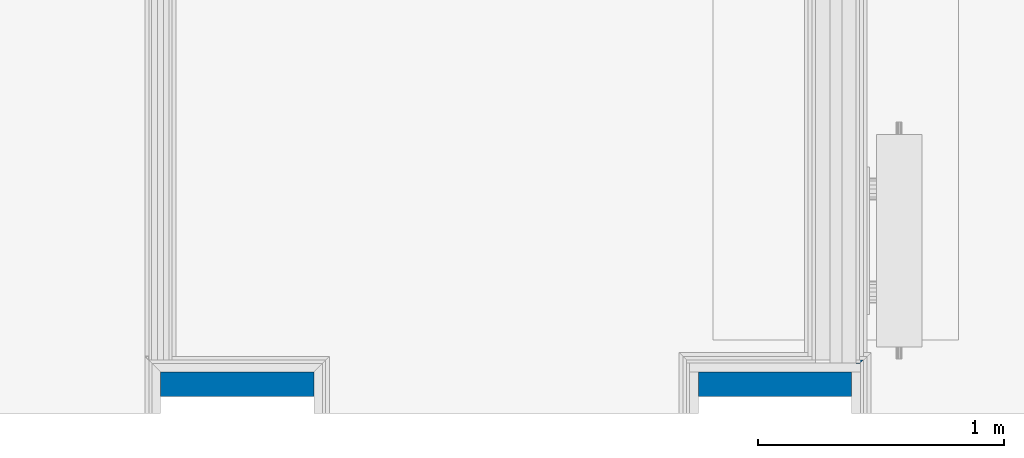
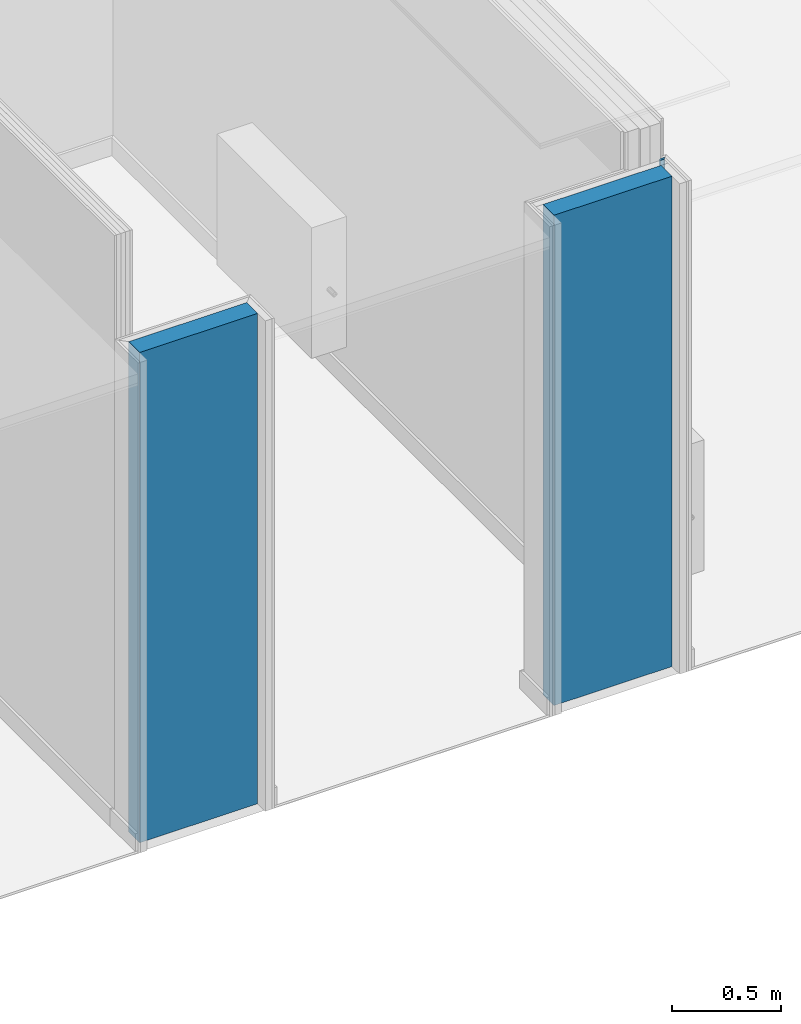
# One storey, part 5 of 65: 3 walls.
"""IFC2X3 building model written with IfcOpenShell, lengths in metres."""

from ifc_helpers import new_model, entity, si_unit, converted_unit, derived_unit, money_unit, direction, frame, frame_2d, origin_with_axes, place, context, subcontext, project, spatial, polyline, rectangle, outline, extrude, material, layer, layer_set, layer_usage, type_object, element, save


model = new_model("IFC2X3")

# Units and contexts
model_context = context("Model", 3, precision=1e-05, world=origin_with_axes(), true_north=direction((0.0, 1.0)))
body_context = subcontext(model_context, "Body", "Model", "MODEL_VIEW", scale=1.0)
ifc_project = project(units=[si_unit("LENGTHUNIT", "METRE"), si_unit("AREAUNIT", "SQUARE_METRE"), si_unit("VOLUMEUNIT", "CUBIC_METRE"), si_unit("ABSORBEDDOSEUNIT", "GRAY"), si_unit("AMOUNTOFSUBSTANCEUNIT", "MOLE"), si_unit("DOSEEQUIVALENTUNIT", "SIEVERT"), si_unit("ELECTRICCAPACITANCEUNIT", "FARAD"), si_unit("ELECTRICCHARGEUNIT", "COULOMB"), si_unit("ELECTRICCONDUCTANCEUNIT", "SIEMENS"), si_unit("ELECTRICCURRENTUNIT", "AMPERE"), si_unit("ELECTRICRESISTANCEUNIT", "OHM"), si_unit("ELECTRICVOLTAGEUNIT", "VOLT"), si_unit("ENERGYUNIT", "JOULE"), si_unit("FORCEUNIT", "NEWTON"), si_unit("FREQUENCYUNIT", "HERTZ"), si_unit("ILLUMINANCEUNIT", "LUX"), si_unit("INDUCTANCEUNIT", "HENRY"), si_unit("LUMINOUSFLUXUNIT", "LUMEN"), si_unit("LUMINOUSINTENSITYUNIT", "CANDELA"), si_unit("MAGNETICFLUXDENSITYUNIT", "TESLA"), si_unit("MAGNETICFLUXUNIT", "WEBER"), si_unit("MASSUNIT", "GRAM"), converted_unit("PLANEANGLEUNIT", "degree", entity("IfcReal", 0.0174532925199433), si_unit("PLANEANGLEUNIT", "RADIAN"), dimensions=[0, 0, 0, 0, 0, 0, 0]), si_unit("POWERUNIT", "WATT"), si_unit("PRESSUREUNIT", "PASCAL"), si_unit("RADIOACTIVITYUNIT", "BECQUEREL"), si_unit("SOLIDANGLEUNIT", "STERADIAN"), si_unit("THERMODYNAMICTEMPERATUREUNIT", "KELVIN"), si_unit("TIMEUNIT", "SECOND"), derived_unit("ACCELERATIONUNIT", [(si_unit("LENGTHUNIT", "METRE"), 1), (si_unit("TIMEUNIT", "SECOND"), -2)]), derived_unit("ANGULARVELOCITYUNIT", [(converted_unit("PLANEANGLEUNIT", "degree", entity("IfcReal", 0.0174532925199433), si_unit("PLANEANGLEUNIT", "RADIAN"), dimensions=[0, 0, 0, 0, 0, 0, 0]), 1), (si_unit("TIMEUNIT", "SECOND"), -1)]), derived_unit("CURVATUREUNIT", [(converted_unit("PLANEANGLEUNIT", "degree", entity("IfcReal", 0.0174532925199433), si_unit("PLANEANGLEUNIT", "RADIAN"), dimensions=[0, 0, 0, 0, 0, 0, 0]), 1), (si_unit("LENGTHUNIT", "METRE"), -1)]), derived_unit("DYNAMICVISCOSITYUNIT", [(si_unit("PRESSUREUNIT", "PASCAL"), 1), (si_unit("TIMEUNIT", "SECOND"), 1)]), derived_unit("HEATFLUXDENSITYUNIT", [(si_unit("POWERUNIT", "WATT"), 1), (si_unit("LENGTHUNIT", "METRE"), -2)]), derived_unit("HEATINGVALUEUNIT", [(si_unit("ENERGYUNIT", "JOULE"), 1), (si_unit("MASSUNIT", "GRAM"), -1)]), derived_unit("INTEGERCOUNTRATEUNIT", [(si_unit("TIMEUNIT", "SECOND"), -1)]), derived_unit("IONCONCENTRATIONUNIT", [(si_unit("MASSUNIT", "GRAM"), 1), (si_unit("VOLUMEUNIT", "CUBIC_METRE"), -1)]), derived_unit("ISOTHERMALMOISTURECAPACITYUNIT", [(si_unit("VOLUMEUNIT", "CUBIC_METRE"), 1), (si_unit("MASSUNIT", "GRAM"), -1)]), derived_unit("KINEMATICVISCOSITYUNIT", [(si_unit("AREAUNIT", "SQUARE_METRE"), 1), (si_unit("TIMEUNIT", "SECOND"), -1)]), derived_unit("LINEARFORCEUNIT", [(si_unit("FORCEUNIT", "NEWTON"), 1), (si_unit("LENGTHUNIT", "METRE"), -1)]), derived_unit("LINEARMOMENTUNIT", [(si_unit("FORCEUNIT", "NEWTON"), 1), (si_unit("LENGTHUNIT", "METRE"), -1)]), derived_unit("LINEARSTIFFNESSUNIT", [(si_unit("FORCEUNIT", "NEWTON"), 1), (si_unit("LENGTHUNIT", "METRE"), -1)]), derived_unit("LINEARVELOCITYUNIT", [(si_unit("LENGTHUNIT", "METRE"), 1), (si_unit("TIMEUNIT", "SECOND"), -1)]), derived_unit("LUMINOUSINTENSITYDISTRIBUTIONUNIT", [(si_unit("LUMINOUSINTENSITYUNIT", "CANDELA"), 1), (si_unit("LUMINOUSFLUXUNIT", "LUMEN"), -1)]), derived_unit("MASSDENSITYUNIT", [(si_unit("MASSUNIT", "GRAM"), 1), (si_unit("VOLUMEUNIT", "CUBIC_METRE"), -1)]), derived_unit("MASSFLOWRATEUNIT", [(si_unit("MASSUNIT", "GRAM"), 1), (si_unit("TIMEUNIT", "SECOND"), -1)]), derived_unit("MASSPERLENGTHUNIT", [(si_unit("MASSUNIT", "GRAM"), 1), (si_unit("LENGTHUNIT", "METRE"), -1)]), derived_unit("MODULUSOFELASTICITYUNIT", [(si_unit("FORCEUNIT", "NEWTON"), 1), (si_unit("AREAUNIT", "SQUARE_METRE"), -1)]), derived_unit("MODULUSOFLINEARSUBGRADEREACTIONUNIT", [(si_unit("FORCEUNIT", "NEWTON"), 1), (si_unit("LENGTHUNIT", "METRE"), -2)]), derived_unit("MODULUSOFROTATIONALSUBGRADEREACTIONUNIT", [(si_unit("FORCEUNIT", "NEWTON"), 1), (si_unit("LENGTHUNIT", "METRE"), 1)]), derived_unit("MODULUSOFSUBGRADEREACTIONUNIT", [(si_unit("FORCEUNIT", "NEWTON"), 1), (si_unit("VOLUMEUNIT", "CUBIC_METRE"), -1)]), derived_unit("MOISTUREDIFFUSIVITYUNIT", [(si_unit("VOLUMEUNIT", "CUBIC_METRE"), 1), (si_unit("TIMEUNIT", "SECOND"), -1)]), derived_unit("MOLECULARWEIGHTUNIT", [(si_unit("MASSUNIT", "GRAM"), 1), (si_unit("AMOUNTOFSUBSTANCEUNIT", "MOLE"), -1)]), derived_unit("PLANARFORCEUNIT", [(si_unit("FORCEUNIT", "NEWTON"), 1), (si_unit("LENGTHUNIT", "METRE"), -2)]), derived_unit("ROTATIONALFREQUENCYUNIT", [(si_unit("TIMEUNIT", "SECOND"), -1)]), derived_unit("ROTATIONALMASSUNIT", [(si_unit("MASSUNIT", "GRAM"), 1), (si_unit("LENGTHUNIT", "METRE"), 2)]), derived_unit("ROTATIONALSTIFFNESSUNIT", [(si_unit("FORCEUNIT", "NEWTON"), 1), (si_unit("LENGTHUNIT", "METRE"), 1), (converted_unit("PLANEANGLEUNIT", "degree", entity("IfcReal", 0.0174532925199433), si_unit("PLANEANGLEUNIT", "RADIAN"), dimensions=[0, 0, 0, 0, 0, 0, 0]), -1)]), derived_unit("SECTIONAREAINTEGRALUNIT", [(si_unit("LENGTHUNIT", "METRE"), 5)]), derived_unit("SECTIONMODULUSUNIT", [(si_unit("LENGTHUNIT", "METRE"), 3)]), derived_unit("SHEARMODULUSUNIT", [(si_unit("FORCEUNIT", "NEWTON"), 1), (si_unit("AREAUNIT", "SQUARE_METRE"), -1)]), derived_unit("SOUNDPOWERUNIT", [(si_unit("ENERGYUNIT", "JOULE"), 1), (si_unit("TIMEUNIT", "SECOND"), -1)]), derived_unit("SPECIFICHEATCAPACITYUNIT", [(si_unit("FORCEUNIT", "NEWTON"), 1), (si_unit("MASSUNIT", "GRAM"), -1), (si_unit("THERMODYNAMICTEMPERATUREUNIT", "KELVIN"), -1)]), derived_unit("TEMPERATUREGRADIENTUNIT", [(si_unit("THERMODYNAMICTEMPERATUREUNIT", "KELVIN"), 1), (si_unit("LENGTHUNIT", "METRE"), -1)]), derived_unit("THERMALADMITTANCEUNIT", [(si_unit("POWERUNIT", "WATT"), 1), (si_unit("AREAUNIT", "SQUARE_METRE"), -1), (si_unit("THERMODYNAMICTEMPERATUREUNIT", "KELVIN"), -1)]), derived_unit("THERMALCONDUCTANCEUNIT", [(si_unit("POWERUNIT", "WATT"), 1), (si_unit("LENGTHUNIT", "METRE"), -1), (si_unit("THERMODYNAMICTEMPERATUREUNIT", "KELVIN"), -1)]), derived_unit("THERMALEXPANSIONCOEFFICIENTUNIT", [(si_unit("THERMODYNAMICTEMPERATUREUNIT", "KELVIN"), -1)]), derived_unit("THERMALRESISTANCEUNIT", [(si_unit("AREAUNIT", "SQUARE_METRE"), 1), (si_unit("POWERUNIT", "WATT"), -1)]), derived_unit("THERMALTRANSMITTANCEUNIT", [(si_unit("POWERUNIT", "WATT"), 1), (si_unit("AREAUNIT", "SQUARE_METRE"), -1), (si_unit("THERMODYNAMICTEMPERATUREUNIT", "KELVIN"), -1)]), derived_unit("TORQUEUNIT", [(si_unit("FORCEUNIT", "NEWTON"), 1), (si_unit("LENGTHUNIT", "METRE"), 1)]), derived_unit("VAPORPERMEABILITYUNIT", [(si_unit("MASSUNIT", "GRAM"), 1), (si_unit("TIMEUNIT", "SECOND"), -1)]), derived_unit("VOLUMETRICFLOWRATEUNIT", [(si_unit("VOLUMEUNIT", "CUBIC_METRE"), 1), (si_unit("TIMEUNIT", "SECOND"), -1)]), derived_unit("WARPINGCONSTANTUNIT", [(si_unit("LENGTHUNIT", "METRE"), 6)]), derived_unit("WARPINGMOMENTUNIT", [(si_unit("FORCEUNIT", "NEWTON"), 1), (si_unit("LENGTHUNIT", "METRE"), 2)]), money_unit("GBP")], contexts=[model_context])

# Site, building, storey
site_placement = place(None, origin_with_axes())
site = spatial("IfcSite", under=ifc_project, at=site_placement, Name="Site", CompositionType="ELEMENT")
building_placement = place(site_placement, origin_with_axes())
building = spatial("IfcBuilding", under=site, at=building_placement, Name="Building01", CompositionType="ELEMENT")
storey_placement = place(building_placement, frame((0.0, 0.0, 8.64), z_axis=(0.0, 0.0, 1.0), x_axis=(1.0, 0.0, 0.0)))
storey = spatial("IfcBuildingStorey", under=building, at=storey_placement, Name="2F", CompositionType="ELEMENT", Elevation=8.64)

# Walls
ifc_material_1 = material(Name="A_BSUK_WallsExternal_Block")
ifc_layer_1 = layer(ifc_material_1, 0.1, ventilated=False)
ifc_layer_set_1 = layer_set([ifc_layer_1])
ifc_layer_usage_1 = layer_usage(ifc_layer_set_1, "AXIS2", "POSITIVE", 0.0)
wall_type_1 = type_object("IfcWallType", Name="A-Walls-ExternalBlock", PredefinedType="NOTDEFINED")
for number, where, z_axis, x_axis, name in (
    (1, (20.387, 0.27, 0.0), (0.0, 0.0, 1.0), (-1.0, 0.0, 0.0), "A-Walls-ExternalBlock"),
    (2, (22.577, 0.27, 0.0), (0.0, 0.0, 1.0), (-1.0, 0.0, 0.0), "A-Walls-ExternalBlock"),
):
    element("IfcWallStandardCase", number, at=place(storey_placement, frame(where, z_axis=z_axis, x_axis=x_axis)), inside=storey, type_object=wall_type_1, material=ifc_layer_usage_1, Name=name, ObjectType="A-Walls-ExternalBlock", context=body_context, shape_type="SweptSolid", body=[
        extrude(rectangle(XDim=0.624, YDim=0.1, at=frame_2d((0.312, 0.05), x_axis=(-1.0, 0.0))), origin_with_axes(), (0.0, 0.0, 1.0), 2.74),
    ])
ifc_material_2 = material(Name="A_BSUK_WallInternal_Finishes_Plasterboard")
ifc_layer_2 = layer(ifc_material_2, 0.013, ventilated=False)
ifc_layer_set_2 = layer_set([ifc_layer_2])
ifc_layer_usage_2 = layer_usage(ifc_layer_set_2, "AXIS2", "POSITIVE", 0.0)
wall_type_2 = type_object("IfcWallType", Name="default", PredefinedType="NOTDEFINED")
wall_placement = place(storey_placement, frame((22.595, 0.305, 0.0), z_axis=(0.0, 0.0, 1.0), x_axis=(1.0, 0.0, 0.0)))
element("IfcWallStandardCase", 3, at=wall_placement, inside=storey, type_object=wall_type_2, material=ifc_layer_usage_2, Name="default", ObjectType="default", context=body_context, shape_type="SweptSolid", body=[
    extrude(outline(polyline([(0.03, 0.013), (0.0, 0.013), (0.0, 0.0), (0.017, 0.0), (0.03, 0.013)])), origin_with_axes(), (0.0, 0.0, 1.0), 2.74),
])

save(model, "model.ifc")
